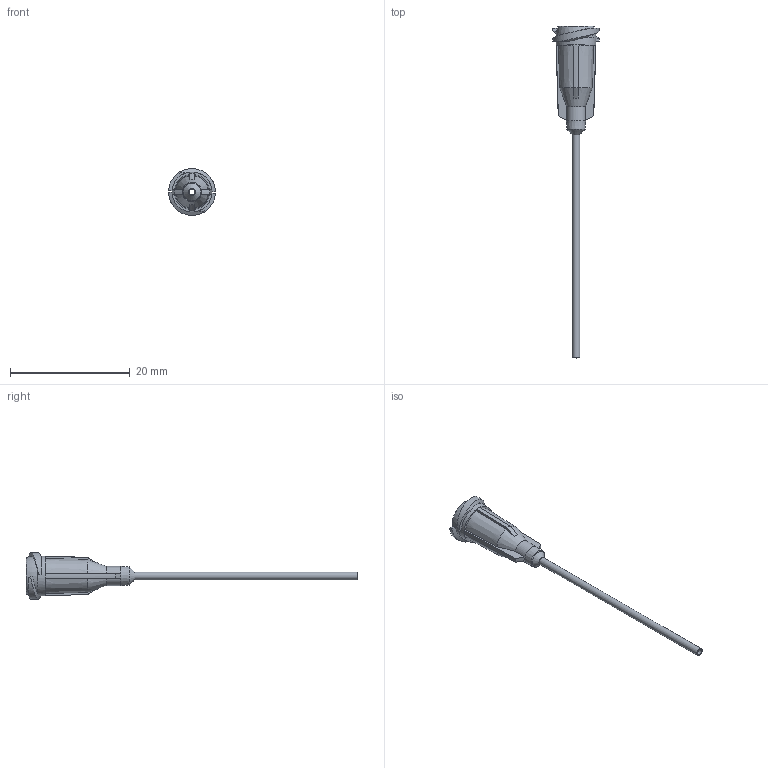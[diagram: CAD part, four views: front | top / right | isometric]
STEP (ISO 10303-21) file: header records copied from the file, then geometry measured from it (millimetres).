
FILE_DESCRIPTION (( 'STEP AP214' ), '1' );
FILE_NAME ('DAV TE 18 15.STEP', '2023-09-29T06:09:51', ( '' ), ( '' ), 'SwSTEP 2.0', 'SolidWorks 2022', '' );
FILE_SCHEMA (( 'AUTOMOTIVE_DESIGN' ));
Length unit declared in the file: millimetre
Products named in the file (1): DAV TE 18 15
Bounding box: 7.82 x 55.47 x 7.82 mm (x, y, z)
Volume: 278.2 mm3; surface area: 808.5 mm2
Topology: 1 solids, 1 shells, 63 faces, 161 edges, 101 vertices
Faces by surface type: plane 23, cone 16, bspline 10, cylinder 7, torus 7
Full cylindrical faces by diameter (mm): 0.99 x1, 1.27 x1, 2.87 x1, 6.655 x1
Entity records: 2066 total; most frequent: CARTESIAN_POINT 796, ORIENTED_EDGE 262, DIRECTION 228, EDGE_CURVE 131, AXIS2_PLACEMENT_3D 99, VERTEX_POINT 89, EDGE_LOOP 80, FACE_OUTER_BOUND 71
